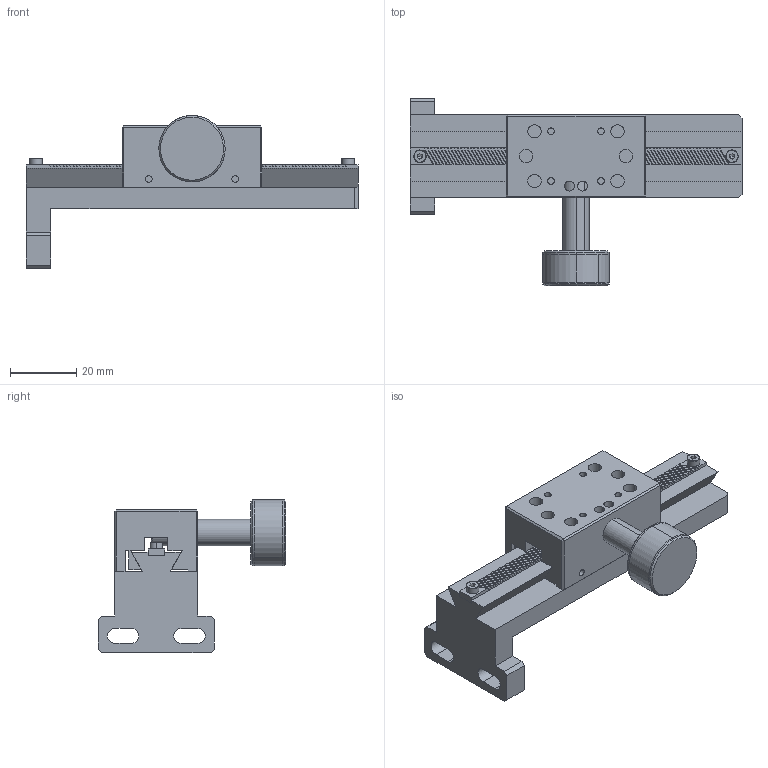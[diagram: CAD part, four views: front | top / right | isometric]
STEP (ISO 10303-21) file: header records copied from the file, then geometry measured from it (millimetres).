
FILE_DESCRIPTION (( 'STEP AP203' ), '1' );
FILE_NAME ('PT-DZ16-100.STEP', '2017-01-03T08:52:39', ( '微软用户' ), ( '微软中国' ), 'SwSTEP 2.0', 'SolidWorks 2016', '' );
FILE_SCHEMA (( 'CONFIG_CONTROL_DESIGN' ));
Length unit declared in the file: millimetre
Products named in the file (6): PT-ZD16-100-U; PT-D11-42100-L1; 忒梟; 喘沭; socket head cap screw_iso_ISO 4762 M2 x 3 --- 3N; PT-DZ16-100
Assembly tree (7 placements, depth 2):
  PT-DZ16-100
    PT-ZD16-100-U
    PT-D11-42100-L1
    忒梟  x2
    喘沭
    socket head cap screw_iso_ISO 4762 M2 x 3 --- 3N  x2
Bounding box: 100 x 56.5 x 46.1 mm (x, y, z)
Volume: 49405.8 mm3; surface area: 23789.8 mm2
Topology: 7 solids, 7 shells, 572 faces, 1572 edges, 1030 vertices
Faces by surface type: plane 480, cylinder 68, cone 16, bspline 8
Entity records: 17816 total; most frequent: CARTESIAN_POINT 3249, ORIENTED_EDGE 2984, DIRECTION 2698, EDGE_CURVE 1492, LINE 1350, VECTOR 1350, VERTEX_POINT 985, AXIS2_PLACEMENT_3D 674
